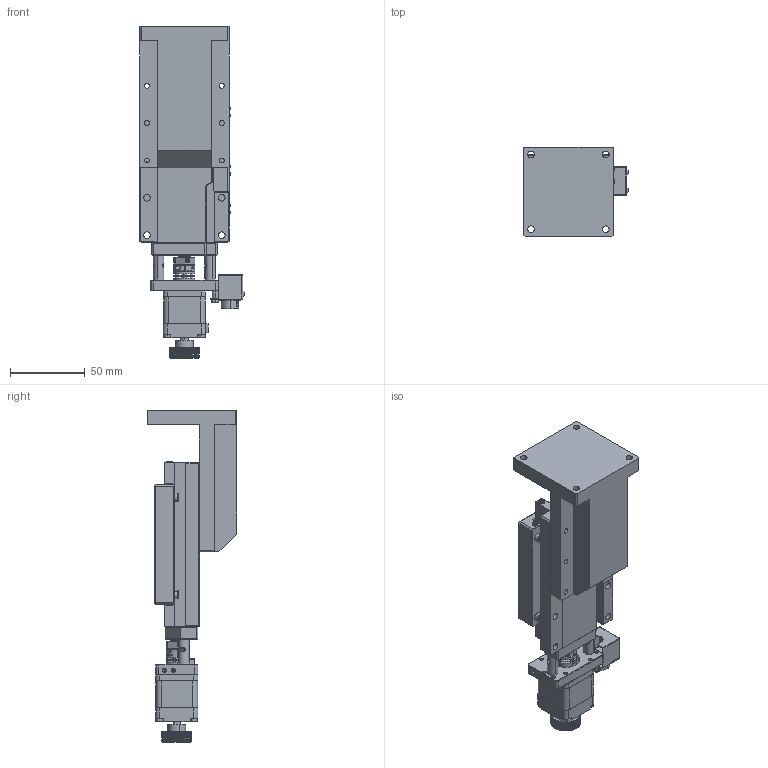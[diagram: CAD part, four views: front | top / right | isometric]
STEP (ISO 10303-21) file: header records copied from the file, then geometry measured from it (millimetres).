
FILE_DESCRIPTION (( 'STEP AP214' ), '1' );
FILE_NAME ('TZS6050B-L1-M28L.STEP', '2025-01-03T09:03:28', ( '' ), ( '' ), 'SwSTEP 2.0', 'SolidWorks 2020', '' );
FILE_SCHEMA (( 'AUTOMOTIVE_DESIGN' ));
Length unit declared in the file: millimetre
Products named in the file (3): TZS6050B-L1-M28L; D0201-001285 蛌諉啣60x60x96; TXS6050B-L1-M28L
Assembly tree (2 placements, depth 2):
  TZS6050B-L1-M28L
    TXS6050B-L1-M28L
    D0201-001285 蛌諉啣60x60x96
Bounding box: 70.13 x 60 x 222.2 mm (x, y, z)
Volume: 276994 mm3; surface area: 92005.4 mm2
Topology: 36 solids, 45 shells, 2972 faces, 7688 edges, 4832 vertices
Faces by surface type: plane 1415, cylinder 946, cone 453, bspline 126, torus 26, sphere 6
Entity records: 156862 total; most frequent: CARTESIAN_POINT 54676, ORIENTED_EDGE 15152, DIRECTION 13648, EDGE_CURVE 7576, AXIS2_PLACEMENT_3D 4896, VERTEX_POINT 4826, VECTOR 3856, LINE 3856
